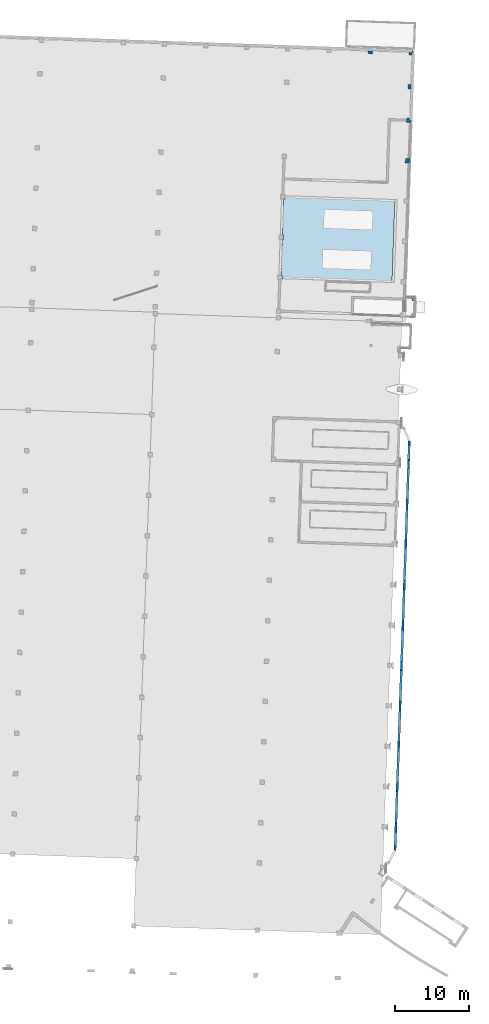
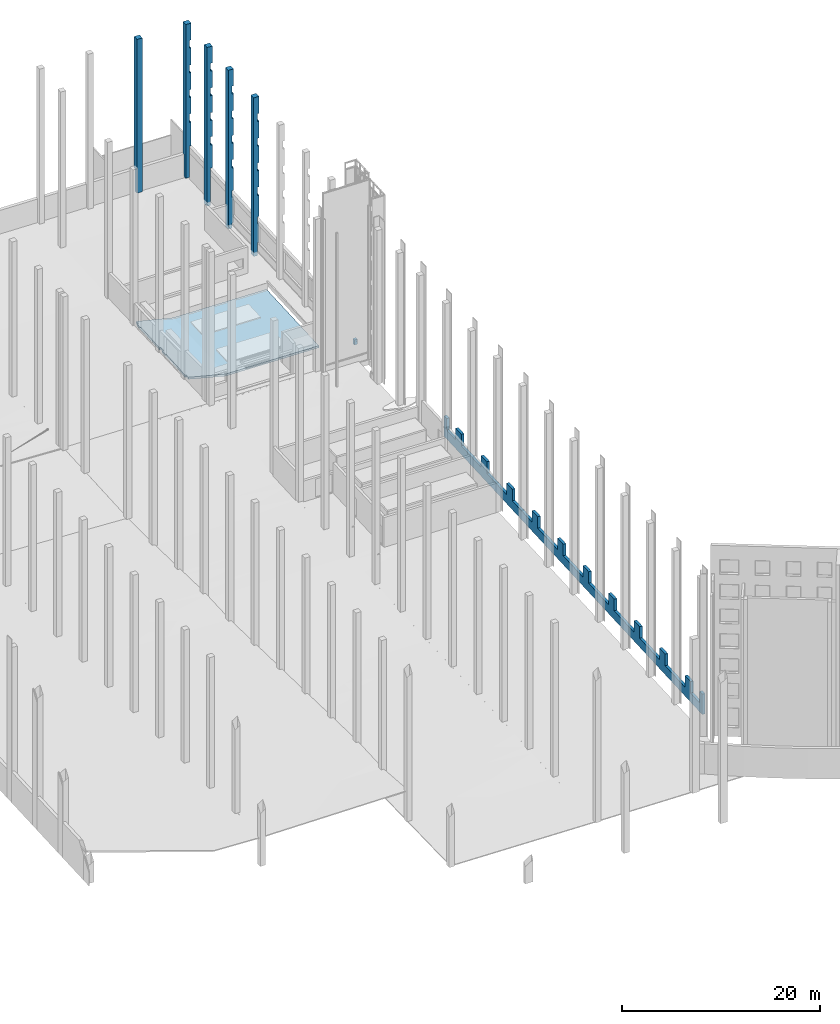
# One storey, part 40 of 44: 6 columns, 1 slab, 1 wall.
"""IFC2X3 building model written with IfcOpenShell, lengths in feet."""

import ifcopenshell
import ifcopenshell.guid

model = None  # the IFC model being written
_history = None  # IfcOwnerHistory: only IFC2X3 demands one
_inside = {}  # id of a spatial element -> (the spatial element, [elements in it])
_under = {}  # id of a project, library or spatial element -> (it, [spatial elements below it])
_declared = {}  # id of a project -> (the project, [libraries it declares])
_typed = {}  # id of a type object -> (the type object, [elements of that type])
_made_of = {}  # id of a material, layer set ... -> (it, [elements and type objects made of it])


def new_model(schema):
    """Start an empty IFC model of exactly this schema.

    Asked for "IFC4X3", IfcOpenShell would pick the latest addendum, in which some entities
    have other attributes; the version numbers below select the first issue.
    IFC2X3 requires an IfcOwnerHistory on every rooted entity: one is made here for all.
    """
    global model, _history
    if schema == "IFC4X3":
        model = ifcopenshell.file(schema_version=(4, 3, 0, 0))
    else:
        model = ifcopenshell.file(schema=schema)
    _inside.clear()
    _under.clear()
    _declared.clear()
    _typed.clear()
    _made_of.clear()
    _history = None
    if model.schema == "IFC2X3":
        org = make("IfcOrganization", Name="unknown")
        user = make(
            "IfcPersonAndOrganization",
            ThePerson=make("IfcPerson", FamilyName="unknown"),
            TheOrganization=org,
        )
        app = make(
            "IfcApplication",
            ApplicationDeveloper=org,
            Version="unknown",
            ApplicationFullName="unknown",
            ApplicationIdentifier="unknown",
        )
        _history = make(
            "IfcOwnerHistory",
            OwningUser=user,
            OwningApplication=app,
            ChangeAction="ADDED",
            CreationDate=0,
        )
    return model


def make(cls, **values):
    """One entity of the class cls with the attributes given. An attribute that is None is left unset."""
    return model.create_entity(
        cls, **{name: value for name, value in values.items() if value is not None}
    )


def entity(cls, *values):
    """Any entity or typed value of the class cls, its attributes in the order of the schema. None: left unset."""
    e = model.create_entity(cls)
    for i, value in enumerate(values):
        if value is not None:
            e[i] = value
    return e


def rooted(cls, **values):
    """An entity with a GlobalId (a new one), such as an element, a storey or a relation."""
    return make(cls, GlobalId=ifcopenshell.guid.new(), OwnerHistory=_history, **values)


def si_unit(unit_type, name, prefix=None):
    """IfcSIUnit, for example si_unit("LENGTHUNIT", "METRE", prefix="MILLI")."""
    return make("IfcSIUnit", UnitType=unit_type, Prefix=prefix, Name=name)


def converted_unit(unit_type, name, factor, base, dimensions=None, offset=None):
    """IfcConversionBasedUnit, such as the inch: factor (a typed value) times the base unit."""
    return make(
        "IfcConversionBasedUnit"
        if offset is None
        else "IfcConversionBasedUnitWithOffset",
        ConversionOffset=offset,
        Dimensions=None
        if dimensions is None
        else entity("IfcDimensionalExponents", *dimensions),
        UnitType=unit_type,
        Name=name,
        ConversionFactor=make(
            "IfcMeasureWithUnit", ValueComponent=factor, UnitComponent=base
        ),
    )


def derived_unit(unit_type, elements):
    """IfcDerivedUnit: a product of units, each with its exponent."""
    return make(
        "IfcDerivedUnit",
        Elements=[
            make("IfcDerivedUnitElement", Unit=unit, Exponent=power)
            for unit, power in elements
        ],
        UnitType=unit_type,
    )


def assignment(units):
    """IfcUnitAssignment: the units of a project."""
    return None if units is None else make("IfcUnitAssignment", Units=units)


def point(xyz):
    """IfcCartesianPoint."""
    return None if xyz is None else make("IfcCartesianPoint", Coordinates=xyz)


def direction(xyz):
    """IfcDirection."""
    return None if xyz is None else make("IfcDirection", DirectionRatios=xyz)


def frame(location, z_axis=None, x_axis=None):
    """IfcAxis2Placement3D, a coordinate frame: its origin and axes. An axis left out is left unset."""
    return make(
        "IfcAxis2Placement3D",
        Location=point(location),
        Axis=direction(z_axis),
        RefDirection=direction(x_axis),
    )


def origin():
    """The frame at (0, 0, 0) with its axes left unset."""
    return frame((0.0, 0.0, 0.0))


def place(relative_to, where):
    """IfcLocalPlacement: puts the frame where relative to a parent placement (None: the world)."""
    return make(
        "IfcLocalPlacement", PlacementRelTo=relative_to, RelativePlacement=where
    )


def context(
    kind, dimensions, precision=None, world=None, true_north=None, identifier=None
):
    """IfcGeometricRepresentationContext, for example the 3D "Model" context."""
    return make(
        "IfcGeometricRepresentationContext",
        ContextIdentifier=identifier,
        ContextType=kind,
        CoordinateSpaceDimension=dimensions,
        Precision=precision,
        WorldCoordinateSystem=world,
        TrueNorth=true_north,
    )


def subcontext(parent, identifier, kind, view, scale=None):
    """IfcGeometricRepresentationSubContext, for example "Body" below "Model"."""
    return make(
        "IfcGeometricRepresentationSubContext",
        ContextIdentifier=identifier,
        ContextType=kind,
        ParentContext=parent,
        TargetScale=scale,
        TargetView=view,
    )


def project(units=None, contexts=None):
    """IfcProject with its units and contexts."""
    return rooted(
        "IfcProject",
        Name="project",
        RepresentationContexts=contexts,
        UnitsInContext=assignment(units),
    )


def spatial(cls, under=None, at=None, **own):
    """A site, building, storey or space (cls), placed at a placement, below another one or the project."""
    s = rooted(cls, ObjectPlacement=at, **own)
    if under is not None:
        _under.setdefault(under.id(), (under, []))[1].append(s)
    return s


def faces_of(points, faces, orient=None, outer=None):
    """IfcFace entities. A face is a list of loops; a loop is a list of indices into points, from 0.

    orient and outer hold one flag for each loop. By default every Orientation is true, the
    first loop of a face is its IfcFaceOuterBound and the others are IfcFaceBound.
    """
    made = []
    for i, loops in enumerate(faces):
        bounds = []
        for j, loop in enumerate(loops):
            is_outer = j == 0 if outer is None else outer[i][j]
            bounds.append(
                make(
                    "IfcFaceOuterBound" if is_outer else "IfcFaceBound",
                    Bound=make("IfcPolyLoop", Polygon=[points[k] for k in loop]),
                    Orientation=True if orient is None else orient[i][j],
                )
            )
        made.append(make("IfcFace", Bounds=bounds))
    return made


def faceted_brep(points, faces, orient=None, outer=None, voids=None):
    """IfcFacetedBrep: a solid bounded by flat faces; with voids (closed shells), ...WithVoids."""
    shared = [point(p) for p in points]
    hull = make("IfcClosedShell", CfsFaces=faces_of(shared, faces, orient, outer))
    if voids is None:
        return make("IfcFacetedBrep", Outer=hull)
    return make(
        "IfcFacetedBrepWithVoids",
        Outer=hull,
        Voids=[
            make(cls, CfsFaces=faces_of(shared, fs, o, b)) for cls, fs, o, b in voids
        ],
    )


def shape(context_of_items, identifier, shape_type, items):
    """IfcShapeRepresentation: the items that make up one representation, for example the "Body"."""
    return make(
        "IfcShapeRepresentation",
        ContextOfItems=context_of_items,
        RepresentationIdentifier=identifier,
        RepresentationType=shape_type,
        Items=items,
    )


def source(mapping_origin, context_of_items, identifier, shape_type, items):
    """IfcRepresentationMap: a shape defined once, which mapped items show again and again."""
    return make(
        "IfcRepresentationMap",
        MappingOrigin=mapping_origin,
        MappedRepresentation=shape(context_of_items, identifier, shape_type, items),
    )


def transform(
    local_origin,
    x_axis=None,
    y_axis=None,
    z_axis=None,
    scale=None,
    scale2=None,
    scale3=None,
    uniform=True,
):
    """IfcCartesianTransformationOperator3D, or its non-uniform kind. x_axis, y_axis, z_axis: its Axis1, 2, 3."""
    if uniform:
        return make(
            "IfcCartesianTransformationOperator3D",
            Axis1=direction(x_axis),
            Axis2=direction(y_axis),
            LocalOrigin=point(local_origin),
            Scale=scale,
            Axis3=direction(z_axis),
        )
    return make(
        "IfcCartesianTransformationOperator3DnonUniform",
        Axis1=direction(x_axis),
        Axis2=direction(y_axis),
        LocalOrigin=point(local_origin),
        Scale=scale,
        Axis3=direction(z_axis),
        Scale2=scale2,
        Scale3=scale3,
    )


def mapped(mapping_source, mapping_target):
    """IfcMappedItem: shows the shape of a source again, moved by a transform."""
    return make(
        "IfcMappedItem", MappingSource=mapping_source, MappingTarget=mapping_target
    )


def material(Name=None, Category=None):
    """IfcMaterial."""
    return make("IfcMaterial", Name=Name, Category=Category)


def layer(
    of_material, thickness, ventilated=None, Name=None, Category=None, Priority=None
):
    """IfcMaterialLayer: one layer of a wall or slab, of a material (None: an air gap)."""
    return make(
        "IfcMaterialLayer",
        Material=of_material,
        LayerThickness=thickness,
        IsVentilated=ventilated,
        Name=Name,
        Category=Category,
        Priority=Priority,
    )


def layer_set(layers, Name=None):
    """IfcMaterialLayerSet."""
    return make("IfcMaterialLayerSet", MaterialLayers=layers, LayerSetName=Name)


def made_of(thing, what):
    """Note that an element or type object is made of a material, layer set ...; save() writes the relation."""
    if what is not None:
        _made_of.setdefault(what.id(), (what, []))[1].append(thing)
    return thing


def type_object(cls, material=None, **own):
    """A type object (cls), such as IfcWallType, which elements share."""
    return made_of(rooted(cls, **own), material)


def type_shapes(of_type, sources):
    """Give a type object the sources (RepresentationMaps) that its elements show as mapped items."""
    of_type.RepresentationMaps = sources


def element(
    cls,
    number,
    at=None,
    inside=None,
    cuts=None,
    type_object=None,
    material=None,
    context=None,
    identifier="Body",
    shape_type=None,
    held_by="IfcProductDefinitionShape",
    body=None,
    shapes=None,
    **own,
):
    """One element of the class cls, such as IfcWall. Its Tag is "e" and its number.

    at: its placement. inside: the storey or other place that contains it. cuts: it is an
    opening in that element (IfcRelVoidsElement). A single representation is given by context,
    identifier, shape_type and body (its items); several are given by shapes. held_by: the class
    of the entity that holds the representations. save() writes the other relations.
    """
    e = rooted(cls, Tag="e%d" % number, ObjectPlacement=at, **own)
    if body is not None:
        shapes = [shape(context, identifier, shape_type, body)]
    if shapes is not None:
        e.Representation = make(held_by, Representations=shapes)
    if inside is not None:
        _inside.setdefault(inside.id(), (inside, []))[1].append(e)
    if cuts is not None:
        rooted(
            "IfcRelVoidsElement", RelatingBuildingElement=cuts, RelatedOpeningElement=e
        )
    if type_object is not None:
        _typed.setdefault(type_object.id(), (type_object, []))[1].append(e)
    return made_of(e, material)


def aggregate(whole, parts):
    """IfcRelAggregates: a whole, such as a stair, and the parts it consists of."""
    return rooted("IfcRelAggregates", RelatingObject=whole, RelatedObjects=parts)


def save(model, path):
    """Write the relations noted so far, then the file.

    IfcRelAggregates (storeys below a building ...), IfcRelContainedInSpatialStructure (elements
    in a storey), IfcRelDefinesByType, IfcRelAssociatesMaterial and IfcRelDeclares: one each for
    every whole, place, type object, material and project.
    """
    for whole, parts in _under.values():
        aggregate(whole, parts)
    for where, things in _inside.values():
        rooted(
            "IfcRelContainedInSpatialStructure",
            RelatedElements=things,
            RelatingStructure=where,
        )
    for kind, things in _typed.values():
        rooted("IfcRelDefinesByType", RelatedObjects=things, RelatingType=kind)
    for what, things in _made_of.values():
        rooted("IfcRelAssociatesMaterial", RelatedObjects=things, RelatingMaterial=what)
    for by, libraries in _declared.values():
        rooted("IfcRelDeclares", RelatingContext=by, RelatedDefinitions=libraries)
    model.write(path)


model = new_model("IFC2X3")

# Units and contexts
model_context = context("Model", 3, precision=0.0001, world=origin(), true_north=direction((0.999390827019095, 0.0348994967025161)))
body_context = subcontext(model_context, "Body", "Model", "MODEL_VIEW")
ifc_project = project(units=[converted_unit("LENGTHUNIT", "FOOT", entity("IfcRatioMeasure", 0.3048), si_unit("LENGTHUNIT", "METRE"), dimensions=[1, 0, 0, 0, 0, 0, 0]), converted_unit("AREAUNIT", "SQUARE FOOT", entity("IfcRatioMeasure", 0.09290304), si_unit("AREAUNIT", "SQUARE_METRE"), dimensions=[2, 0, 0, 0, 0, 0, 0]), converted_unit("VOLUMEUNIT", "CUBIC FOOT", entity("IfcRatioMeasure", 0.028316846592), si_unit("VOLUMEUNIT", "CUBIC_METRE"), dimensions=[3, 0, 0, 0, 0, 0, 0]), converted_unit("PLANEANGLEUNIT", "DEGREE", entity("IfcRatioMeasure", 0.0174532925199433), si_unit("PLANEANGLEUNIT", "RADIAN"), dimensions=[0, 0, 0, 0, 0, 0, 0]), si_unit("MASSUNIT", "GRAM", prefix="KILO"), si_unit("TIMEUNIT", "SECOND"), si_unit("FREQUENCYUNIT", "HERTZ"), si_unit("THERMODYNAMICTEMPERATUREUNIT", "DEGREE_CELSIUS"), derived_unit("THERMALTRANSMITTANCEUNIT", [(si_unit("MASSUNIT", "GRAM", prefix="KILO"), 1), (si_unit("THERMODYNAMICTEMPERATUREUNIT", "KELVIN"), -1), (si_unit("TIMEUNIT", "SECOND"), -3)]), derived_unit("VOLUMETRICFLOWRATEUNIT", [(si_unit("LENGTHUNIT", "METRE"), 3), (si_unit("TIMEUNIT", "SECOND"), -1)]), si_unit("ELECTRICCURRENTUNIT", "AMPERE"), si_unit("ELECTRICVOLTAGEUNIT", "VOLT"), si_unit("POWERUNIT", "WATT"), si_unit("FORCEUNIT", "NEWTON"), si_unit("ILLUMINANCEUNIT", "LUX"), si_unit("LUMINOUSFLUXUNIT", "LUMEN"), si_unit("LUMINOUSINTENSITYUNIT", "CANDELA"), derived_unit("USERDEFINED", [(si_unit("MASSUNIT", "GRAM", prefix="KILO"), -1), (si_unit("LENGTHUNIT", "METRE"), -2), (si_unit("TIMEUNIT", "SECOND"), 3), (si_unit("LUMINOUSFLUXUNIT", "LUMEN"), 1)]), derived_unit("LINEARVELOCITYUNIT", [(si_unit("LENGTHUNIT", "METRE"), 1), (si_unit("TIMEUNIT", "SECOND"), -1)]), si_unit("PRESSUREUNIT", "PASCAL"), derived_unit("USERDEFINED", [(si_unit("LENGTHUNIT", "METRE"), -2), (si_unit("MASSUNIT", "GRAM", prefix="KILO"), 1), (si_unit("TIMEUNIT", "SECOND"), -2)])], contexts=[model_context])

# Site, building, storey
site_placement = place(None, frame((892.518771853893, 322.38689265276, 0.00393700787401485), z_axis=(0.0, 0.0, 1.0), x_axis=(0.0348994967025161, 0.999390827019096, 0.0)))
site = spatial("IfcSite", under=ifc_project, at=site_placement, Name="Default", CompositionType="ELEMENT")
building_placement = place(site_placement, origin())
building = spatial("IfcBuilding", under=site, at=building_placement, CompositionType="ELEMENT")
storey_placement = place(building_placement, frame((0.0, 0.0, 544.75)))
storey = spatial("IfcBuildingStorey", under=building, at=storey_placement, Name="Exist Garage - Ground Level", CompositionType="ELEMENT", Elevation=544.75)

# Columns
ifc_material_1 = material(Name="Concrete - Cast-in-Place Concrete")
column_type_1 = type_object("IfcColumnType", Name="24 x 24", PredefinedType="COLUMN", material=ifc_material_1)
shared_shape_1 = source(origin(), body_context, "Body", "Brep", [
    faceted_brep([(0.0, 0.0, 0.0), (0.0, 2.0, 0.0), (1.25, 2.0, 0.0), (1.25, 0.0, 0.0), (2.0, 2.0, 62.25), (2.0, 0.0, 62.25), (2.0, 0.0, 9.64029965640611), (2.0, 0.0, 8.97363298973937), (2.0, 2.0, 8.97363298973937), (2.0, 2.0, 9.64029965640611), (0.0, 0.0, 62.25), (1.25, 0.0, 8.97363298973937), (0.0, 2.0, 62.25), (1.25, 2.0, 8.97363298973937)], [[[0, 1, 2, 3]], [[4, 5, 6, 7, 8, 9]], [[5, 10, 0, 3, 11, 7, 6]], [[1, 0, 10, 12]], [[1, 12, 4, 9, 8, 13, 2]], [[5, 4, 12, 10]], [[13, 11, 3, 2]], [[11, 13, 8, 7]]]),
])
type_shapes(column_type_1, [shared_shape_1])
column_1_placement = place(storey_placement, frame((221.927293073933, 254.097286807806, 0.0)))
element("IfcColumn", 1, at=column_1_placement, inside=storey, type_object=column_type_1, material=ifc_material_1, Name="Concrete-Square-Column:24 x 24", ObjectType="24 x 24", context=body_context, shape_type="MappedRepresentation", body=[
    mapped(shared_shape_1, transform((0.0, 0.0, 0.0), scale=1.0)),
])
column_type_2 = type_object("IfcColumnType", Name="24 x 24", PredefinedType="COLUMN", material=ifc_material_1)
shared_shape_2 = source(origin(), body_context, "Body", "Brep", [
    faceted_brep([(0.0, 0.666666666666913, 0.0), (0.0, 2.0, 0.0), (1.24999999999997, 2.0, 0.0), (1.24999999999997, 0.666666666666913, 0.0), (2.0, 2.0, 62.25), (2.0, 0.0, 62.25), (2.0, 0.0, 0.0), (2.0, 0.6666666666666, 0.0), (2.0, 0.6666666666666, 8.97363298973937), (2.0, 2.0, 8.97363298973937), (0.0, 0.0, 62.25), (0.0, 0.0, 55.41), (1.0, 0.0, 55.41), (1.0, 0.0, 52.25), (0.0, 0.0, 52.25), (0.0, 0.0, 45.41), (1.0, 0.0, 45.41), (1.0, 0.0, 42.25), (0.0, 0.0, 42.25), (0.0, 0.0, 35.41), (1.0, 0.0, 35.41), (1.0, 0.0, 32.25), (0.0, 0.0, 32.25), (0.0, 0.0, 25.63), (1.0, 0.0, 25.63), (1.0, 0.0, 22.25), (0.0, 0.0, 22.25), (0.0, 0.0, 22.125), (0.0, 0.0, 21.4583333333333), (0.0, 0.0, 12.5520833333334), (1.0, 0.0, 12.5520833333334), (1.0, 0.0, 9.91666666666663), (1.25, 0.0, 9.91666666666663), (1.25, 0.0, 0.0), (0.0, 2.0, 62.25), (0.0, 0.666666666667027, 12.5520833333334), (0.0, 0.666666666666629, 22.25), (0.0, 0.666666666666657, 25.63), (0.0, 0.666666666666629, 32.25), (0.0, 0.666666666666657, 35.41), (0.0, 0.666666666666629, 42.25), (0.0, 0.666666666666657, 45.41), (0.0, 0.666666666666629, 52.25), (0.0, 0.666666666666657, 55.41), (1.24999999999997, 2.0, 8.97363298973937), (1.0, 0.666666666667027, 12.5520833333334), (1.25, 0.666666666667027, 8.97363298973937), (1.25, 0.666666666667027, 9.91666666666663), (1.0, 0.666666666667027, 9.91666666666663), (1.0, 0.666666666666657, 22.25), (1.0, 0.666666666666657, 25.63), (1.0, 0.666666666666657, 32.25), (1.0, 0.666666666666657, 35.41), (1.0, 0.666666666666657, 42.25), (1.0, 0.666666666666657, 45.41), (1.0, 0.666666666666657, 52.25), (1.0, 0.666666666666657, 55.41)], [[[0, 1, 2, 3]], [[4, 5, 6, 7, 8, 9]], [[6, 5, 10, 11, 12, 13, 14, 15, 16, 17, 18, 19, 20, 21, 22, 23, 24, 25, 26, 27, 28, 29, 30, 31, 32, 33]], [[10, 34, 1, 0, 35, 29, 28, 27, 26, 36, 37, 23, 22, 38, 39, 19, 18, 40, 41, 15, 14, 42, 43, 11]], [[1, 34, 4, 9, 44, 2]], [[5, 4, 34, 10]], [[45, 35, 0, 3, 46, 47, 48]], [[45, 30, 29, 35]], [[30, 45, 48, 31]], [[49, 50, 37, 36]], [[25, 49, 36, 26]], [[50, 24, 23, 37]], [[50, 49, 25, 24]], [[51, 52, 39, 38]], [[21, 51, 38, 22]], [[52, 20, 19, 39]], [[52, 51, 21, 20]], [[53, 54, 41, 40]], [[17, 53, 40, 18]], [[54, 16, 15, 41]], [[54, 53, 17, 16]], [[55, 56, 43, 42]], [[13, 55, 42, 14]], [[56, 12, 11, 43]], [[56, 55, 13, 12]], [[31, 48, 47, 32]], [[46, 3, 2, 44]], [[6, 33, 3, 7]], [[32, 47, 46, 3, 33]], [[46, 44, 9, 8]], [[3, 46, 8, 7]]]),
])
type_shapes(column_type_2, [shared_shape_2])
column_2_placement = place(storey_placement, frame((221.927293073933, 235.763953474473, 0.0)))
element("IfcColumn", 2, at=column_2_placement, inside=storey, type_object=column_type_2, material=ifc_material_1, Name="Concrete-Square-Column:24 x 24", ObjectType="24 x 24", context=body_context, shape_type="MappedRepresentation", body=[
    mapped(shared_shape_2, transform((0.0, 0.0, 0.0), scale=1.0)),
])
column_type_3 = type_object("IfcColumnType", Name="24 x 24", PredefinedType="COLUMN", material=ifc_material_1)
shared_shape_3 = source(origin(), body_context, "Body", "Brep", [
    faceted_brep([(0.0, 2.0, 0.0), (2.0, 2.0, 0.0), (2.0, 0.666666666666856, 0.0), (0.0, 0.666666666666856, 0.0), (2.0, 2.0, 64.2698567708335), (2.0, 0.666666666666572, 64.2698567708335), (2.0, 0.0, 64.2698567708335), (2.0, 0.0, 63.6031901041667), (2.0, 0.0, 57.4298567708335), (2.0, 0.6666666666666, 57.4298567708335), (2.0, 0.6666666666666, 54.2698567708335), (2.0, 0.0, 54.2698567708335), (2.0, 0.0, 53.6031901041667), (2.0, 0.0, 47.4298567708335), (2.0, 0.6666666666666, 47.4298567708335), (2.0, 0.6666666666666, 44.2698567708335), (2.0, 0.0, 44.2698567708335), (2.0, 0.0, 43.6031901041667), (2.0, 0.0, 37.4298567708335), (2.0, 0.6666666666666, 37.4298567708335), (2.0, 0.6666666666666, 34.2698567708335), (2.0, 0.0, 34.2698567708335), (2.0, 0.0, 33.6031901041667), (2.0, 0.0, 27.6498567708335), (2.0, 0.6666666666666, 27.6498567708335), (2.0, 0.6666666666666, 24.2698567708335), (2.0, 0.0, 24.2698567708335), (2.0, 0.0, 23.6031901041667), (2.0, 0.0, 14.5719401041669), (2.0, 0.66666666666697, 14.5719401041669), (0.0, 0.0, 64.2698567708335), (0.0, 0.0, 63.6031901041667), (0.0, 0.0, 57.4298567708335), (0.0, 0.6666666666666, 64.2698567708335), (0.0, 2.0, 64.2698567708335), (0.0, 0.666666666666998, 14.9886067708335), (0.0, 0.0, 14.9886067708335), (0.0, 0.0, 23.6031901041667), (0.0, 0.0, 24.2698567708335), (0.0, 0.666666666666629, 24.2698567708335), (0.0, 0.6666666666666, 27.6498567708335), (0.0, 0.0, 27.6498567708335), (0.0, 0.0, 33.6031901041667), (0.0, 0.0, 34.2698567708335), (0.0, 0.666666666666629, 34.2698567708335), (0.0, 0.6666666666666, 37.4298567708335), (0.0, 0.0, 37.4298567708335), (0.0, 0.0, 43.6031901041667), (0.0, 0.0, 44.2698567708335), (0.0, 0.666666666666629, 44.2698567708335), (0.0, 0.6666666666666, 47.4298567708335), (0.0, 0.0, 47.4298567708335), (0.0, 0.0, 53.6031901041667), (0.0, 0.0, 54.2698567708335), (0.0, 0.666666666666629, 54.2698567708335), (0.0, 0.6666666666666, 57.4298567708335), (1.0, 0.666666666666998, 14.9886067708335), (1.0, 0.666666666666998, 14.5719401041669), (1.0, 0.0, 14.9886067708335), (1.0, 0.0, 14.5719401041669)], [[[0, 1, 2, 3]], [[4, 5, 6, 7, 8, 9, 10, 11, 12, 13, 14, 15, 16, 17, 18, 19, 20, 21, 22, 23, 24, 25, 26, 27, 28, 29, 2, 1]], [[6, 30, 31, 32, 8, 7]], [[30, 33, 34, 0, 3, 35, 36, 37, 38, 39, 40, 41, 42, 43, 44, 45, 46, 47, 48, 49, 50, 51, 52, 53, 54, 55, 32, 31]], [[1, 0, 34, 4]], [[6, 5, 4, 34, 33, 30]], [[56, 35, 3, 2, 29, 57]], [[56, 58, 36, 35]], [[58, 56, 57, 59]], [[57, 29, 28, 59]], [[24, 40, 39, 25]], [[25, 39, 38, 26]], [[40, 24, 23, 41]], [[36, 58, 59, 28, 27, 26, 38, 37]], [[19, 45, 44, 20]], [[20, 44, 43, 21]], [[45, 19, 18, 46]], [[41, 23, 22, 21, 43, 42]], [[14, 50, 49, 15]], [[15, 49, 48, 16]], [[50, 14, 13, 51]], [[46, 18, 17, 16, 48, 47]], [[9, 55, 54, 10]], [[10, 54, 53, 11]], [[55, 9, 8, 32]], [[51, 13, 12, 11, 53, 52]]]),
])
type_shapes(column_type_3, [shared_shape_3])
column_3_placement = place(storey_placement, frame((206.927293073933, 235.763953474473, -2.01985677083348)))
element("IfcColumn", 3, at=column_3_placement, inside=storey, type_object=column_type_3, material=ifc_material_1, Name="Concrete-Square-Column:24 x 24", ObjectType="24 x 24", context=body_context, shape_type="MappedRepresentation", body=[
    mapped(shared_shape_3, transform((0.0, 0.0, 0.0), scale=1.0)),
])
column_type_4 = type_object("IfcColumnType", Name="24 x 24", PredefinedType="COLUMN", material=ifc_material_1)
shared_shape_4 = source(origin(), body_context, "Body", "Brep", [
    faceted_brep([(0.0, 2.0, 0.0), (2.0, 2.0, 0.0), (2.0, 0.666666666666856, 0.0), (0.0, 0.666666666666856, 0.0), (2.0, 2.0, 64.2698567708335), (2.0, 0.666666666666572, 64.2698567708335), (2.0, 0.0, 64.2698567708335), (2.0, 0.0, 63.6031901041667), (2.0, 0.0, 57.4298567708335), (2.0, 0.666666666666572, 57.4298567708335), (2.0, 0.6666666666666, 54.2698567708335), (2.0, 0.0, 54.2698567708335), (2.0, 0.0, 53.6031901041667), (2.0, 0.0, 47.4298567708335), (2.0, 0.666666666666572, 47.4298567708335), (2.0, 0.6666666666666, 44.2698567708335), (2.0, 0.0, 44.2698567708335), (2.0, 0.0, 43.6031901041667), (2.0, 0.0, 37.4298567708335), (2.0, 0.666666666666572, 37.4298567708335), (2.0, 0.6666666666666, 34.2698567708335), (2.0, 0.0, 34.2698567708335), (2.0, 0.0, 33.6031901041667), (2.0, 0.0, 27.6498567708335), (2.0, 0.666666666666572, 27.6498567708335), (2.0, 0.6666666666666, 24.2698567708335), (2.0, 0.0, 24.2698567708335), (2.0, 0.0, 23.6031901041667), (2.0, 0.0, 14.9886067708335), (2.0, 0.666666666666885, 14.9886067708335), (0.0, 0.0, 64.2698567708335), (0.0, 0.0, 63.6031901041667), (0.0, 0.0, 57.4298567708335), (0.0, 0.6666666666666, 64.2698567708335), (0.0, 2.0, 64.2698567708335), (0.0, 0.666666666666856, 2.01985677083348), (0.0, 0.0, 2.01985677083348), (0.0, 0.0, 12.3323567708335), (0.0, 0.666666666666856, 12.3323567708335), (0.0, 0.666666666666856, 15.2177734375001), (0.0, 0.0, 15.2177734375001), (0.0, 0.0, 23.6031901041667), (0.0, 0.0, 24.2698567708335), (0.0, 0.6666666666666, 24.2698567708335), (0.0, 0.6666666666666, 27.6498567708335), (0.0, 0.0, 27.6498567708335), (0.0, 0.0, 33.6031901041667), (0.0, 0.0, 34.2698567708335), (0.0, 0.6666666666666, 34.2698567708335), (0.0, 0.6666666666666, 37.4298567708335), (0.0, 0.0, 37.4298567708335), (0.0, 0.0, 43.6031901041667), (0.0, 0.0, 44.2698567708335), (0.0, 0.6666666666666, 44.2698567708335), (0.0, 0.6666666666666, 47.4298567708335), (0.0, 0.0, 47.4298567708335), (0.0, 0.0, 53.6031901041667), (0.0, 0.0, 54.2698567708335), (0.0, 0.6666666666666, 54.2698567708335), (0.0, 0.6666666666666, 57.4298567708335), (1.0, 0.666666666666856, 15.2177734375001), (1.0, 0.666666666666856, 12.3323567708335), (1.0, 0.666666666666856, 11.9365234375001), (1.0, 0.666666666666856, 2.01985677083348), (1.0, 0.666666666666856, 14.9886067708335), (1.0, 0.0, 12.3323567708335), (1.0, 0.0, 15.2177734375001), (1.0, 0.0, 14.9886067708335), (1.0, 0.0, 11.9365234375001), (1.0, 0.0, 2.01985677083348)], [[[0, 1, 2, 3]], [[4, 5, 6, 7, 8, 9, 10, 11, 12, 13, 14, 15, 16, 17, 18, 19, 20, 21, 22, 23, 24, 25, 26, 27, 28, 29, 2, 1]], [[6, 30, 31, 32, 8, 7]], [[30, 33, 34, 0, 3, 35, 36, 37, 38, 39, 40, 41, 42, 43, 44, 45, 46, 47, 48, 49, 50, 51, 52, 53, 54, 55, 56, 57, 58, 59, 32, 31]], [[1, 0, 34, 4]], [[6, 5, 4, 34, 33, 30]], [[60, 39, 38, 61, 62, 63, 35, 3, 2, 29, 64]], [[61, 38, 37, 65]], [[60, 66, 40, 39]], [[66, 60, 64, 67]], [[64, 29, 28, 67]], [[61, 65, 68, 69, 63, 62]], [[24, 44, 43, 25]], [[25, 43, 42, 26]], [[44, 24, 23, 45]], [[40, 66, 67, 28, 27, 26, 42, 41]], [[19, 49, 48, 20]], [[20, 48, 47, 21]], [[49, 19, 18, 50]], [[45, 23, 22, 21, 47, 46]], [[14, 54, 53, 15]], [[15, 53, 52, 16]], [[54, 14, 13, 55]], [[50, 18, 17, 16, 52, 51]], [[9, 59, 58, 10]], [[10, 58, 57, 11]], [[59, 9, 8, 32]], [[55, 13, 12, 11, 57, 56]], [[65, 37, 36, 69, 68]], [[35, 63, 69, 36]]]),
])
type_shapes(column_type_4, [shared_shape_4])
column_4_placement = place(storey_placement, frame((191.927293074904, 235.763953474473, -2.01985677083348)))
element("IfcColumn", 4, at=column_4_placement, inside=storey, type_object=column_type_4, material=ifc_material_1, Name="Concrete-Square-Column:24 x 24", ObjectType="24 x 24", context=body_context, shape_type="MappedRepresentation", body=[
    mapped(shared_shape_4, transform((0.0, 0.0, 0.0), scale=1.0)),
])
column_type_5 = type_object("IfcColumnType", Name="24 x 24", PredefinedType="COLUMN", material=ifc_material_1)
shared_shape_5 = source(origin(), body_context, "Body", "Brep", [
    faceted_brep([(0.0, 2.0, 0.0), (2.0, 2.0, 0.0), (2.0, 0.666666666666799, 0.0), (0.0, 0.666666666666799, 0.0), (2.0, 2.0, 64.2698567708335), (2.0, 0.6666666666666, 64.2698567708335), (2.0, 0.0, 64.2698567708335), (2.0, 0.0, 63.6031901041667), (2.0, 0.0, 57.4298567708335), (2.0, 0.666666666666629, 57.4298567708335), (2.0, 0.666666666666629, 54.2698567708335), (2.0, 0.0, 54.2698567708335), (2.0, 0.0, 53.6031901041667), (2.0, 0.0, 47.4298567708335), (2.0, 0.666666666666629, 47.4298567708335), (2.0, 0.666666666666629, 44.2698567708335), (2.0, 0.0, 44.2698567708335), (2.0, 0.0, 43.6031901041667), (2.0, 0.0, 37.4298567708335), (2.0, 0.666666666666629, 37.4298567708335), (2.0, 0.666666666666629, 34.2698567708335), (2.0, 0.0, 34.2698567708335), (2.0, 0.0, 33.6031901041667), (2.0, 0.0, 27.6498567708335), (2.0, 0.666666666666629, 27.6498567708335), (2.0, 0.666666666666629, 24.2698567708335), (2.0, 0.0, 24.2698567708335), (2.0, 0.0, 23.6031901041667), (2.0, 0.0, 15.2177734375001), (2.0, 0.666666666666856, 15.2177734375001), (2.0, 0.666666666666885, 12.3323567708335), (2.0, 0.0, 12.3323567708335), (2.0, 0.0, 5.16569010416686), (2.0, 0.666666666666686, 5.16569010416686), (0.0, 0.0, 64.2698567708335), (0.0, 0.0, 63.6031901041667), (0.0, 0.0, 57.4298567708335), (0.0, 0.6666666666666, 64.2698567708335), (0.0, 2.0, 64.2698567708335), (0.0, 0.666666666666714, 5.16569010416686), (0.0, 0.0, 5.16569010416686), (0.0, 0.0, 12.7698567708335), (0.0, 0.666666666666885, 12.7698567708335), (0.0, 0.666666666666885, 15.6552734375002), (0.0, 0.0, 15.6552734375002), (0.0, 0.0, 23.6031901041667), (0.0, 0.0, 24.2698567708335), (0.0, 0.666666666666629, 24.2698567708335), (0.0, 0.666666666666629, 27.6498567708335), (0.0, 0.0, 27.6498567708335), (0.0, 0.0, 33.6031901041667), (0.0, 0.0, 34.2698567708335), (0.0, 0.666666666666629, 34.2698567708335), (0.0, 0.666666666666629, 37.4298567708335), (0.0, 0.0, 37.4298567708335), (0.0, 0.0, 43.6031901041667), (0.0, 0.0, 44.2698567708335), (0.0, 0.666666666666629, 44.2698567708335), (0.0, 0.666666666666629, 47.4298567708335), (0.0, 0.0, 47.4298567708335), (0.0, 0.0, 53.6031901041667), (0.0, 0.0, 54.2698567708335), (0.0, 0.666666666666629, 54.2698567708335), (0.0, 0.666666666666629, 57.4298567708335), (1.0, 0.666666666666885, 12.7698567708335), (1.0, 0.666666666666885, 12.3323567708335), (1.0, 0.666666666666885, 15.2177734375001), (1.0, 0.666666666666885, 15.6552734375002), (1.0, 0.0, 12.7698567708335), (1.0, 0.0, 15.6552734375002), (1.0, 0.0, 15.2177734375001), (1.0, 0.0, 12.3323567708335)], [[[0, 1, 2, 3]], [[4, 5, 6, 7, 8, 9, 10, 11, 12, 13, 14, 15, 16, 17, 18, 19, 20, 21, 22, 23, 24, 25, 26, 27, 28, 29, 30, 31, 32, 33, 2, 1]], [[6, 34, 35, 36, 8, 7]], [[34, 37, 38, 0, 3, 39, 40, 41, 42, 43, 44, 45, 46, 47, 48, 49, 50, 51, 52, 53, 54, 55, 56, 57, 58, 59, 60, 61, 62, 63, 36, 35]], [[1, 0, 38, 4]], [[6, 5, 4, 38, 37, 34]], [[42, 64, 65, 30, 29, 66, 67, 43]], [[64, 42, 41, 68]], [[69, 67, 66, 70]], [[67, 69, 44, 43]], [[65, 71, 31, 30]], [[71, 65, 64, 68]], [[66, 29, 28, 70]], [[24, 48, 47, 25]], [[25, 47, 46, 26]], [[48, 24, 23, 49]], [[44, 69, 70, 28, 27, 26, 46, 45]], [[19, 53, 52, 20]], [[20, 52, 51, 21]], [[53, 19, 18, 54]], [[49, 23, 22, 21, 51, 50]], [[14, 58, 57, 15]], [[15, 57, 56, 16]], [[58, 14, 13, 59]], [[54, 18, 17, 16, 56, 55]], [[9, 63, 62, 10]], [[10, 62, 61, 11]], [[63, 9, 8, 36]], [[59, 13, 12, 11, 61, 60]], [[71, 68, 41, 40, 32, 31]], [[33, 39, 3, 2]], [[39, 33, 32, 40]]]),
])
type_shapes(column_type_5, [shared_shape_5])
column_5_placement = place(storey_placement, frame((173.927293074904, 235.763953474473, -2.01985677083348)))
element("IfcColumn", 5, at=column_5_placement, inside=storey, type_object=column_type_5, material=ifc_material_1, Name="Concrete-Square-Column:24 x 24", ObjectType="24 x 24", context=body_context, shape_type="MappedRepresentation", body=[
    mapped(shared_shape_5, transform((0.0, 0.0, 0.0), scale=1.0)),
])
column_type_6 = type_object("IfcColumnType", Name="13 x 13", PredefinedType="COLUMN", material=ifc_material_1)
shared_shape_6 = source(origin(), body_context, "Body", "Brep", [
    faceted_brep([(1.08333333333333, 1.08333333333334, 0.0), (1.08333333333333, 0.0, 0.0), (0.0, 0.0, 0.0), (0.0, 1.08333333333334, 0.0), (1.08333333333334, 1.08333333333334, 1.25), (1.08333333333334, 1.08333333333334, 1.66666666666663), (1.08333333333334, 1.08333333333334, 2.0), (1.08333333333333, 0.0, 2.0), (0.0, 0.0, 2.0), (0.0, 0.0, 1.66666666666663), (0.0169678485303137, 0.0, 1.66666666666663), (0.0169678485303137, 0.0, 1.25), (0.0, 0.0, 1.25), (0.0, 1.08333333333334, 2.0), (0.0, 1.08333333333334, 1.66666666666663), (0.0, 1.08333333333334, 1.25), (0.0169678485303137, 1.08333333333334, 1.25), (0.0169678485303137, 1.08333333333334, 1.66666666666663)], [[[0, 1, 2, 3]], [[1, 0, 4, 5, 6, 7]], [[2, 1, 7, 8, 9, 10, 11, 12]], [[8, 13, 14, 9]], [[0, 3, 15, 16, 17, 14, 13, 6, 5, 4]], [[7, 6, 13, 8]], [[11, 16, 15, 12]], [[17, 10, 9, 14]], [[16, 11, 10, 17]], [[3, 2, 12, 15]]]),
])
type_shapes(column_type_6, [shared_shape_6])
column_6_placement = place(storey_placement, frame((112.677296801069, 231.430620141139, -1.66666666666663)))
element("IfcColumn", 6, at=column_6_placement, inside=storey, type_object=column_type_6, material=ifc_material_1, Name="Concrete-Square-Column:13 x 13", ObjectType="13 x 13", context=body_context, shape_type="MappedRepresentation", body=[
    mapped(shared_shape_6, transform((0.0, 0.0, 0.0), scale=1.0)),
])

# Slab
slab_placement = place(storey_placement, origin())
element("IfcSlab", 7, at=slab_placement, inside=storey, material=ifc_material_1, Name="Floor:Concrete Slab - 10\"", ObjectType="Floor:Concrete Slab - 10\"", PredefinedType="FLOOR", context=body_context, shape_type="Brep", body=[
    faceted_brep([(157.427475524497, 290.763953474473, -1.4375), (157.427475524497, 290.763953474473, -0.604166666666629), (157.427475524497, 276.76395347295, -3.66666666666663), (157.427475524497, 241.763953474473, -3.66666666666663), (157.427475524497, 241.763953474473, -4.5), (157.427475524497, 276.76395347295, -4.5), (120.427296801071, 241.763953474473, -3.66666666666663), (120.427296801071, 241.763953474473, -4.5), (120.427296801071, 276.76395347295, -3.66666666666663), (120.427296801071, 290.763953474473, -0.361328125), (120.427296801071, 290.763953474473, -1.19466145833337), (120.427296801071, 276.76395347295, -4.5), (121.927293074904, 291.279578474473, -1.1875), (121.927293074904, 291.279578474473, -0.354166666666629), (124.885192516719, 291.279578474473, -0.104166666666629), (134.901852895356, 291.279578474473, -0.104166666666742), (137.927293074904, 291.279578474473, -0.375), (137.927293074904, 291.279578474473, -1.20833333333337), (134.901852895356, 291.279578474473, -0.937500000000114), (124.885192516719, 291.279578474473, -0.937500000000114), (137.927293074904, 290.763953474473, -0.375), (137.927293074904, 290.763953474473, -1.20833333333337), (139.927293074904, 290.763953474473, -0.375), (139.927293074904, 290.763953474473, -1.20833333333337), (139.927293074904, 291.279578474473, -0.375), (139.927293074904, 291.279578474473, -1.20833333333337), (142.92057132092, 291.279578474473, -0.3125), (152.931627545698, 291.279578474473, -0.3125), (155.927293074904, 291.279578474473, -0.604166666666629), (155.927293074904, 291.279578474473, -1.4375), (152.931627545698, 291.279578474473, -1.14583333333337), (142.92057132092, 291.279578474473, -1.14583333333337), (155.927293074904, 290.763953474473, -0.604166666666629), (155.927293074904, 290.763953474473, -1.4375), (121.927293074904, 290.763953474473, -0.354166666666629), (121.927293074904, 290.763953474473, -1.1875), (124.885192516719, 290.763953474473, -0.104166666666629), (124.885192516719, 290.763953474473, -0.937500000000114), (121.927293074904, 290.597286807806, -0.392091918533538), (121.927293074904, 290.597286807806, -1.22542525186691), (152.93948583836, 290.763953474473, -0.3125), (152.93948583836, 290.763953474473, -1.14583333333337), (155.945152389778, 290.597286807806, -0.640624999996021), (155.945152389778, 290.597286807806, -1.47395833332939), (137.927293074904, 290.597286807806, -0.375), (139.927293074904, 290.597286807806, -0.375), (139.927293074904, 290.597286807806, -1.20833333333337), (137.927293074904, 290.597286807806, -1.20833333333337), (142.92057132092, 290.763953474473, -0.3125), (142.92057132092, 290.763953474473, -1.14583333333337), (134.901852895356, 290.763953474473, -0.104166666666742), (134.901852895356, 290.597286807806, -0.104166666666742), (134.901852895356, 290.597286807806, -0.937500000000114), (134.901852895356, 290.763953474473, -0.937500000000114), (124.885192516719, 290.597286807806, -0.104166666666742), (124.885192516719, 290.597286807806, -0.937500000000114), (142.929851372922, 290.597286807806, -0.3125), (152.942025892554, 290.597286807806, -0.3125), (152.942025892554, 290.597286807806, -1.14583333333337), (142.929851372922, 290.597286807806, -1.14583333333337)], [[[0, 1, 2, 3, 4, 5]], [[4, 3, 6, 7]], [[7, 6, 8, 9, 10, 11]], [[12, 13, 14, 15, 16, 17, 18, 19]], [[17, 16, 20, 21]], [[21, 20, 22, 23]], [[23, 22, 24, 25]], [[25, 24, 26, 27, 28, 29, 30, 31]], [[29, 28, 32, 33]], [[33, 32, 1, 0]], [[10, 9, 34, 35]], [[35, 34, 13, 12]], [[13, 34, 36, 14]], [[12, 19, 37, 35]], [[6, 3, 2, 8]], [[7, 11, 5, 4]], [[34, 9, 38]], [[35, 39, 10]], [[32, 28, 40]], [[33, 41, 29]], [[1, 32, 42, 2]], [[0, 5, 43, 33]], [[22, 20, 44, 45]], [[23, 46, 47, 21]], [[24, 22, 45, 48, 26]], [[25, 31, 49, 46, 23]], [[20, 16, 15, 50, 51, 44]], [[21, 47, 52, 53, 18, 17]], [[14, 36, 54, 51, 50, 15]], [[19, 18, 53, 52, 55, 37]], [[26, 48, 56, 57, 40, 27]], [[31, 30, 41, 58, 59, 49]], [[32, 40, 57]], [[33, 58, 41]], [[28, 27, 40]], [[29, 41, 30]], [[34, 38, 36]], [[9, 8, 38]], [[35, 37, 39]], [[10, 39, 11]], [[8, 54, 38]], [[36, 38, 54]], [[11, 39, 55]], [[37, 55, 39]], [[8, 51, 54]], [[11, 55, 52]], [[8, 44, 51]], [[11, 52, 47]], [[2, 56, 45]], [[5, 46, 59]], [[2, 57, 56]], [[32, 57, 2, 42]], [[5, 59, 58]], [[33, 43, 5, 58]], [[8, 2, 45, 44]], [[11, 47, 46, 5]], [[48, 45, 56]], [[49, 59, 46]]]),
])

# Wall
ifc_material_2 = material(Name="Masonry - Brick")
ifc_layer_1 = layer(ifc_material_2, 0.302083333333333)
ifc_material_3 = material(Name="Insulation / Thermal Barriers - Rigid insulation")
ifc_layer_2 = layer(ifc_material_3, 0.0625)
ifc_material_4 = material(Name="Masonry - Concrete Masonry Units")
ifc_layer_3 = layer(ifc_material_4, 0.635416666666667)
ifc_layer_set = layer_set([ifc_layer_1, ifc_layer_2, ifc_layer_3], Name="Basic Wall:(existing) Exterior - Brick on CMU - 1'-0\"")
wall_type = type_object("IfcWallType", Name="Basic Wall:(existing) Exterior - Brick on CMU - 1'-0\"", PredefinedType="STANDARD", material=ifc_layer_set)
wall_placement = place(storey_placement, frame((50.2605875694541, 231.597286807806, 0.0), z_axis=(0.0, 0.0, 1.0), x_axis=(-1.0, 0.0, 0.0)))
element("IfcWall", 8, at=wall_placement, inside=storey, type_object=wall_type, Name="Basic Wall:(existing) Exterior - Brick on CMU - 1'-0\"", ObjectType="Basic Wall:(existing) Exterior - Brick on CMU - 1'-0\"", context=body_context, shape_type="Brep", body=[
    faceted_brep([(0.230337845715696, -0.5, 0.0), (182.436328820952, -0.499999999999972, 0.0), (182.436328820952, -0.499999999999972, 8.25), (180.666666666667, -0.5, 8.25), (180.666666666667, -0.5, 3.580078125), (174.333333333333, -0.5, 3.580078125), (174.333333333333, -0.5, 8.25), (170.333333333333, -0.5, 8.25), (170.333333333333, -0.5, 3.580078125), (156.333333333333, -0.5, 3.580078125), (156.333333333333, -0.5, 8.25), (152.333333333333, -0.499999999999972, 8.25), (152.333333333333, -0.499999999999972, 3.580078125), (138.333333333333, -0.499999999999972, 3.580078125), (138.333333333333, -0.499999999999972, 8.25), (134.333333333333, -0.5, 8.25), (134.333333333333, -0.5, 3.580078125), (120.333333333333, -0.5, 3.580078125), (120.333333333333, -0.5, 8.25), (116.333333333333, -0.499999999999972, 8.25), (116.333333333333, -0.499999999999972, 3.580078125), (102.333333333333, -0.5, 3.580078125), (102.333333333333, -0.5, 8.25), (98.3333333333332, -0.5, 8.25), (98.3333333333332, -0.5, 3.580078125), (84.3333333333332, -0.499999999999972, 3.580078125), (84.3333333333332, -0.499999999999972, 8.25), (80.3333333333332, -0.5, 8.25), (80.3333333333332, -0.5, 3.580078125), (66.3333333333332, -0.5, 3.580078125), (66.3333333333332, -0.5, 8.25), (62.3333333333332, -0.499999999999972, 8.25), (62.3333333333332, -0.499999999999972, 3.580078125), (48.3333333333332, -0.499999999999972, 3.580078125), (48.3333333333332, -0.499999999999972, 8.25), (44.3333333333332, -0.5, 8.25), (44.3333333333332, -0.5, 3.580078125), (30.3333333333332, -0.5, 3.580078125), (30.3333333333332, -0.5, 8.25), (26.3333333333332, -0.499999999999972, 8.25), (26.3333333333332, -0.499999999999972, 3.580078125), (12.3333333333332, -0.5, 3.580078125), (12.3333333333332, -0.5, 8.25), (8.33333333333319, -0.5, 8.25), (8.33333333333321, -0.5, 3.580078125), (2.0, -0.499999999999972, 3.580078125), (2.0, -0.499999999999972, 8.25), (0.230337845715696, -0.5, 8.25), (0.0, 0.5, 0.0), (0.0, 0.5, 8.25), (2.0, 0.500000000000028, 8.25), (2.0, 0.500000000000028, 3.580078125), (8.33333333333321, 0.5, 3.580078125), (8.3333333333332, 0.5, 8.25), (12.3333333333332, 0.5, 8.25), (12.3333333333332, 0.5, 3.580078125), (26.3333333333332, 0.500000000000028, 3.580078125), (26.3333333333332, 0.500000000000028, 8.25), (30.3333333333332, 0.5, 8.25), (30.3333333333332, 0.5, 3.580078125), (44.3333333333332, 0.5, 3.580078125), (44.3333333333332, 0.5, 8.25), (48.3333333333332, 0.500000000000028, 8.25), (48.3333333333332, 0.500000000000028, 3.580078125), (62.3333333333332, 0.500000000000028, 3.580078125), (62.3333333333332, 0.500000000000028, 8.25), (66.3333333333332, 0.5, 8.25), (66.3333333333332, 0.5, 3.580078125), (80.3333333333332, 0.5, 3.580078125), (80.3333333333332, 0.5, 8.25), (84.3333333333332, 0.500000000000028, 8.25), (84.3333333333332, 0.500000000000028, 3.580078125), (98.3333333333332, 0.5, 3.580078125), (98.3333333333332, 0.5, 8.25), (102.333333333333, 0.5, 8.25), (102.333333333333, 0.5, 3.580078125), (116.333333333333, 0.500000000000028, 3.580078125), (116.333333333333, 0.500000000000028, 8.25), (120.333333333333, 0.5, 8.25), (120.333333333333, 0.5, 3.580078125), (134.333333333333, 0.5, 3.580078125), (134.333333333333, 0.5, 8.25), (138.333333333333, 0.500000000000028, 8.25), (138.333333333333, 0.500000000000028, 3.580078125), (152.333333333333, 0.500000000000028, 3.580078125), (152.333333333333, 0.500000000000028, 8.25), (156.333333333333, 0.5, 8.25), (156.333333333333, 0.5, 3.580078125), (170.333333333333, 0.5, 3.580078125), (170.333333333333, 0.5, 8.25), (174.333333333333, 0.5, 8.25), (174.333333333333, 0.5, 3.580078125), (180.666666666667, 0.5, 3.580078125), (180.666666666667, 0.5, 8.25), (182.666666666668, 0.500000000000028, 8.25), (182.666666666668, 0.500000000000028, 0.0)], [[[0, 1, 2, 3, 4, 5, 6, 7, 8, 9, 10, 11, 12, 13, 14, 15, 16, 17, 18, 19, 20, 21, 22, 23, 24, 25, 26, 27, 28, 29, 30, 31, 32, 33, 34, 35, 36, 37, 38, 39, 40, 41, 42, 43, 44, 45, 46, 47]], [[48, 49, 50, 51, 52, 53, 54, 55, 56, 57, 58, 59, 60, 61, 62, 63, 64, 65, 66, 67, 68, 69, 70, 71, 72, 73, 74, 75, 76, 77, 78, 79, 80, 81, 82, 83, 84, 85, 86, 87, 88, 89, 90, 91, 92, 93, 94, 95]], [[1, 0, 48, 95]], [[3, 2, 94, 93]], [[4, 3, 93, 92]], [[5, 4, 92, 91]], [[6, 5, 91, 90]], [[7, 6, 90, 89]], [[8, 7, 89, 88]], [[9, 8, 88, 87]], [[10, 9, 87, 86]], [[11, 10, 86, 85]], [[12, 11, 85, 84]], [[13, 12, 84, 83]], [[14, 13, 83, 82]], [[15, 14, 82, 81]], [[16, 15, 81, 80]], [[17, 16, 80, 79]], [[18, 17, 79, 78]], [[19, 18, 78, 77]], [[20, 19, 77, 76]], [[21, 20, 76, 75]], [[22, 21, 75, 74]], [[23, 22, 74, 73]], [[24, 23, 73, 72]], [[25, 24, 72, 71]], [[26, 25, 71, 70]], [[27, 26, 70, 69]], [[28, 27, 69, 68]], [[29, 28, 68, 67]], [[30, 29, 67, 66]], [[31, 30, 66, 65]], [[32, 31, 65, 64]], [[33, 32, 64, 63]], [[34, 33, 63, 62]], [[35, 34, 62, 61]], [[36, 35, 61, 60]], [[37, 36, 60, 59]], [[38, 37, 59, 58]], [[39, 38, 58, 57]], [[40, 39, 57, 56]], [[41, 40, 56, 55]], [[42, 41, 55, 54]], [[43, 42, 54, 53]], [[44, 43, 53, 52]], [[45, 44, 52, 51]], [[46, 45, 51, 50]], [[47, 46, 50, 49]], [[2, 1, 95, 94]], [[0, 47, 49, 48]]]),
])

save(model, "model.ifc")
